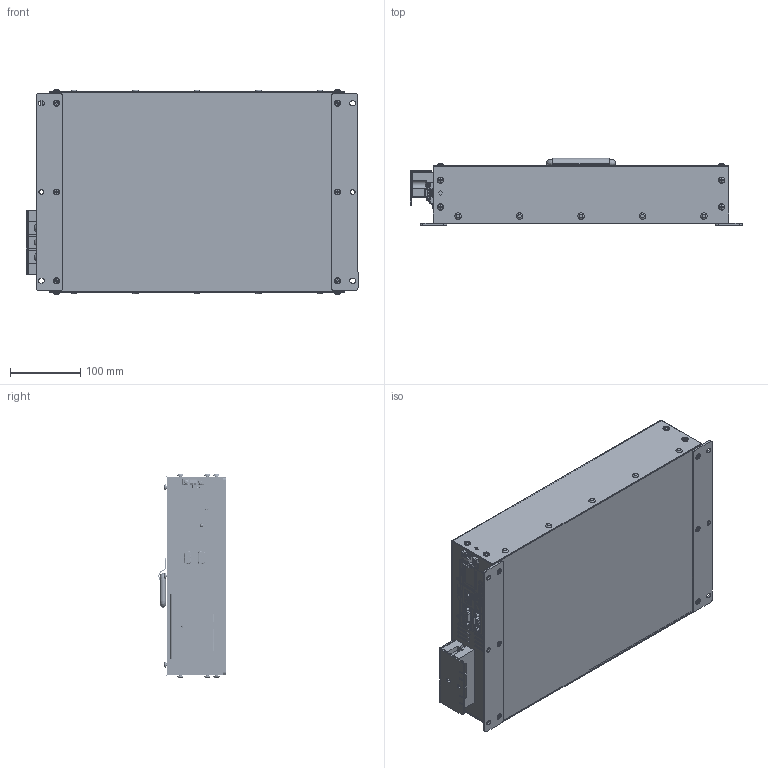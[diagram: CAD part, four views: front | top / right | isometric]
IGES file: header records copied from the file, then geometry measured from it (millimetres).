
Global section: file name: [OLED]VW2COM_HANDLES2S_단순화_2; native system: Autodesk Inventor 2026; preprocessor: unknown; author: Administrator; date: 20260526.160746; units: millimetre
Bounding box: 471.22 x 95.2 x 290.84 mm (x, y, z)
Volume: 718496.4 mm3; surface area: 874749.9 mm2
Topology: 76 solids, 76 shells, 5637 faces, 15163 edges, 10074 vertices
Faces by surface type: bspline 5637
